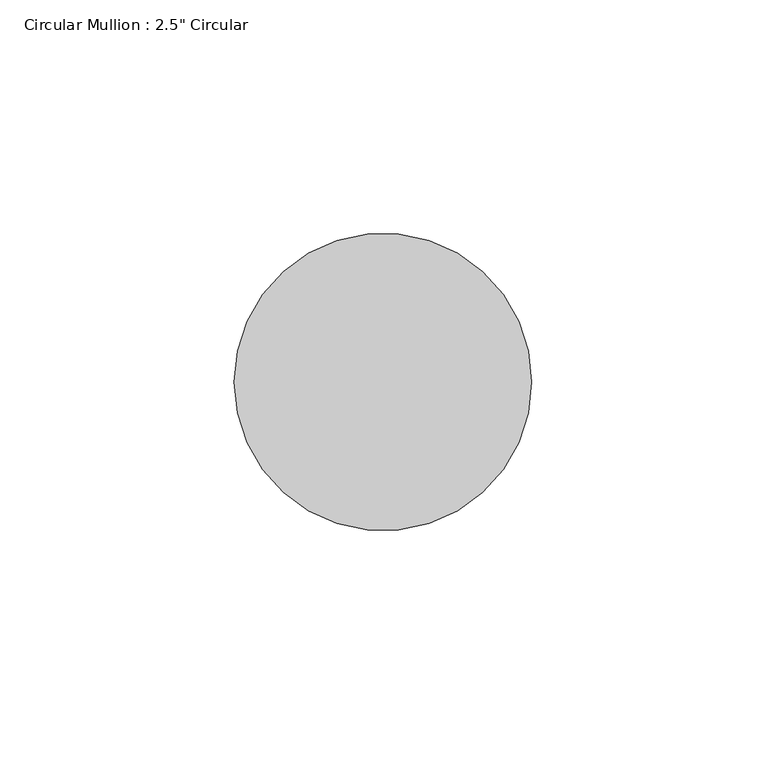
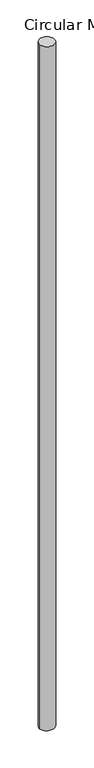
"""IFC4 building model written with IfcOpenShell, lengths in millimetres: member geometry."""

from ifc_helpers import new_model, si_unit, frame, origin, origin_with_axes, place, context, project, spatial, circle_curve, ellipse_curve, source, transform, mapped, element, save
from ifc_brep_helpers import plane_surface, cylinder_surface, advanced_brep


def member_f945ca79(model_context):
    return source(origin(), model_context, "Body", "AdvancedBrep", [
        advanced_brep(
        [(31.75, 0.0, 0.0), (-31.75, 0.0, 0.0), (31.75, 0.0, -3021.6782998), (-31.75, 0.0, -3023.0541317)],
        [
            (0, 1, circle_curve(origin_with_axes(), 31.75)),
            (1, 0, circle_curve(origin_with_axes(), 31.75)),
            (0, 2),
            (2, 3, ellipse_curve(frame((0.0, 0.0, -3022.3662157), z_axis=(-0.02163829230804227, 0.04633769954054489, 0.998691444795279), x_axis=(0.42255710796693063, -0.9048923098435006, 0.05114096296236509)), 31.7916011, 31.75)),
            (3, 1),
            (3, 2, ellipse_curve(frame((0.0, 0.0, -3022.3662157), z_axis=(-0.02163829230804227, 0.04633769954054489, 0.998691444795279), x_axis=(0.42255710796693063, -0.9048923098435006, 0.05114096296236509)), 31.7916011, 31.75)),
        ],
        [
            plane_surface(frame((0.0, -31.75, 0.0), z_axis=(0.0, 0.0, 1.0), x_axis=(-1.0, 0.0, 0.0))),
            cylinder_surface(origin_with_axes(), 31.75),
            plane_surface(frame((276.1725631, 128.9641632, -3022.3662157), z_axis=(0.021638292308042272, -0.0463376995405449, -0.9986914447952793), x_axis=(0.4225571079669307, -0.9048923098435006, 0.051140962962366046))),
        ],
        [
            (0, [[1, 2]]),
            (1, [[-1, 3, 4, 5]]),
            (1, [[-2, -5, 6, -3]]),
            (2, [[-6, -4]]),
        ],
    ),
    ])


if __name__ == "__main__":
    model = new_model("IFC4")
    model_context = context("Model", 3, world=origin())
    ifc_project = project(units=[si_unit("LENGTHUNIT", "METRE", prefix="MILLI")], contexts=[model_context])
    site = spatial("IfcSite", under=ifc_project)
    building = spatial("IfcBuilding", under=site)
    placement = place(None, origin())
    member_shape = member_f945ca79(model_context)
    element("IfcMember", 1, ObjectType="Circular Mullion : 2.5\" Circular", at=placement, inside=building, context=model_context, shape_type="MappedRepresentation", body=[
        mapped(member_shape, transform((0.0, 0.0, 0.0), x_axis=(1.0, 0.0, 0.0), y_axis=(0.0, 1.0, 0.0), z_axis=(0.0, 0.0, 1.0))),
    ])
    save(model, "model.ifc")
